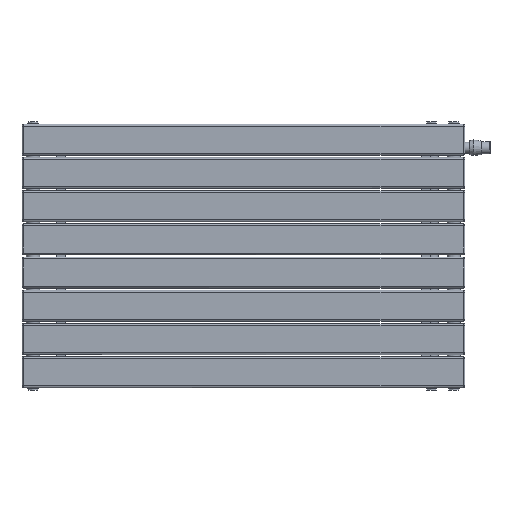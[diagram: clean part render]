
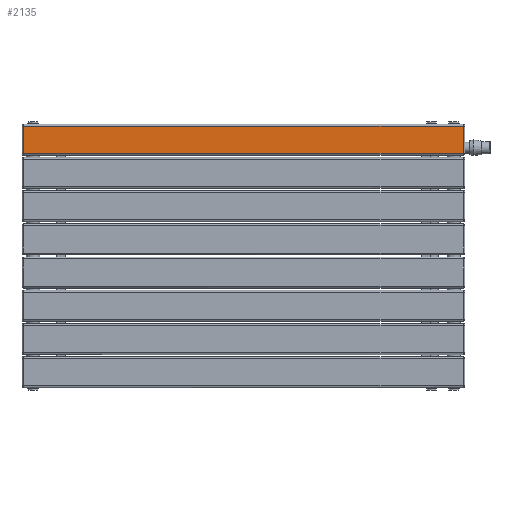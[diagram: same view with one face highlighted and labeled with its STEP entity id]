
A CAD part, top view. The second image highlights one B-rep face of the part: STEP entity #2135.
In plain terms, the highlighted planar face has unit normal (0, 0, 1) as drawn and (0, -1, 0) by its records, which use the part's own axes.
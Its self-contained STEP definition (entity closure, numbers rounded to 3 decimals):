
#237=LINE('',#3380,#409);
#240=LINE('',#3393,#412);
#243=LINE('',#3401,#415);
#244=LINE('',#3407,#416);
#409=VECTOR('',#2666,10.);
#412=VECTOR('',#2683,10.);
#415=VECTOR('',#2692,10.);
#416=VECTOR('',#2703,10.);
#576=PLANE('',#2366);
#704=FACE_OUTER_BOUND('',#843,.T.);
#843=EDGE_LOOP('',(#1594,#1595,#1596,#1597));
#1087=VERTEX_POINT('',#3377);
#1088=VERTEX_POINT('',#3379);
#1091=VERTEX_POINT('',#3391);
#1093=VERTEX_POINT('',#3399);
#1273=EDGE_CURVE('',#1087,#1088,#237,.T.);
#1280=EDGE_CURVE('',#1087,#1091,#240,.T.);
#1284=EDGE_CURVE('',#1093,#1091,#243,.T.);
#1287=EDGE_CURVE('',#1088,#1093,#244,.T.);
#1594=ORIENTED_EDGE('',*,*,#1273,.F.);
#1595=ORIENTED_EDGE('',*,*,#1280,.T.);
#1596=ORIENTED_EDGE('',*,*,#1284,.F.);
#1597=ORIENTED_EDGE('',*,*,#1287,.F.);
#2135=ADVANCED_FACE('',(#704),#576,.T.);
#2366=AXIS2_PLACEMENT_3D('',#3408,#2704,#2705);
#2666=DIRECTION('',(-1.,0.,0.));
#2683=DIRECTION('',(0.,0.,1.));
#2692=DIRECTION('',(1.,0.,0.));
#2703=DIRECTION('',(0.,0.,1.));
#2704=DIRECTION('center_axis',(0.,-1.,0.));
#2705=DIRECTION('ref_axis',(1.,0.,0.));
#3377=CARTESIAN_POINT('',(31.,-8.,-496.));
#3379=CARTESIAN_POINT('',(-31.,-8.,-496.));
#3380=CARTESIAN_POINT('',(-15.5,-8.,-496.));
#3391=CARTESIAN_POINT('',(31.,-8.,496.));
#3393=CARTESIAN_POINT('',(31.,-8.,0.));
#3399=CARTESIAN_POINT('',(-31.,-8.,496.));
#3401=CARTESIAN_POINT('',(-15.5,-8.,496.));
#3407=CARTESIAN_POINT('',(-31.,-8.,0.));
#3408=CARTESIAN_POINT('Origin',(-31.,-8.,0.));
